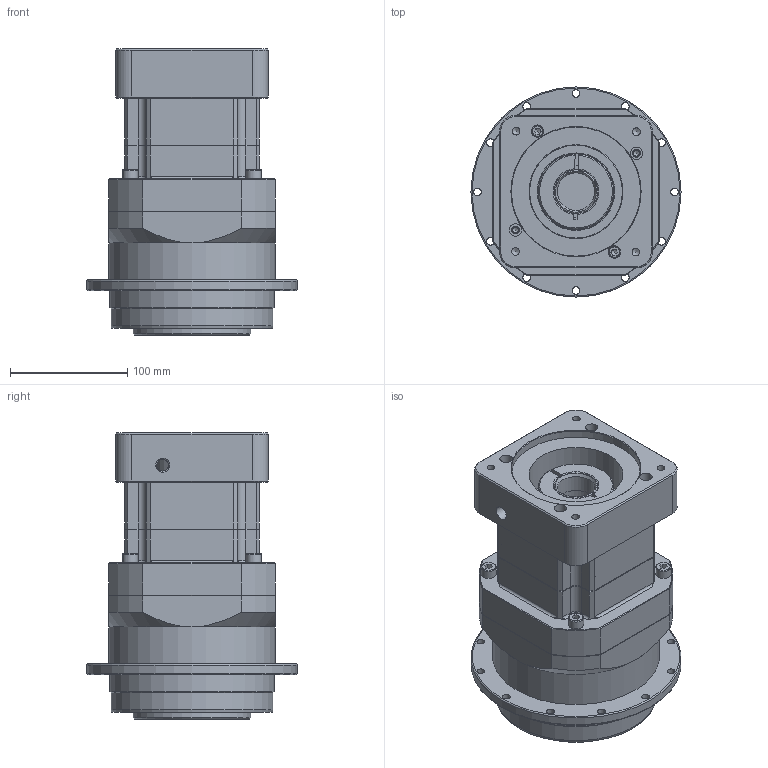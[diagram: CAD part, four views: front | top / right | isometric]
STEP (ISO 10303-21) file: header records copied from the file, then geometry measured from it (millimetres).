
FILE_DESCRIPTION((''),'2;1');
FILE_NAME('D:\유성\유성\도면\3D\2. 홈페이지용 3D 도면 (ipt)\외부도\SPIFH142\SPIFH142 DOWN\SPIFH142D SERIES (2 STAGE)_Shrinkwrap_1.stp','2014-05-08T19:16:09',('nagyu'),(''),'Autodesk Inventor 2013','Autodesk Inventor 2013','');
FILE_SCHEMA(('AUTOMOTIVE_DESIGN { 1 0 10303 214 1 1 1 1 }'));
Length unit declared in the file: millimetre
Products named in the file (1): SPIFH142D SERIES (2 STAGE)_Shrinkwrap_1
Bounding box: 179 x 179 x 243.85 mm (x, y, z)
Volume: 3141635.6 mm3; surface area: 291203.9 mm2
Topology: 1 solids, 22 shells, 477 faces, 1064 edges, 664 vertices
Faces by surface type: plane 188, cylinder 164, cone 97, torus 28
Full cylindrical faces by diameter (mm): 4.917 x8, 6.6 x20, 6.647 x20, 8 x5, 9 x4, 10 x1, 10.5 x8, 12 x1, 13 x15, 32 x1, 32.2 x1, 36.6 x1, 44.7 x1, 50 x1, 65 x1, 80 x2, 100 x3, 103 x1, 108.2 x1, 110 x1, 125 x2, 129.8 x1, 138 x1, 140 x1, 142 x1, 179 x1
Entity records: 12420 total; most frequent: CARTESIAN_POINT 2688, DIRECTION 2066, ORIENTED_EDGE 1670, AXIS2_PLACEMENT_3D 878, EDGE_CURVE 835, EDGE_LOOP 728, VERTEX_POINT 605, FACE_OUTER_BOUND 477
